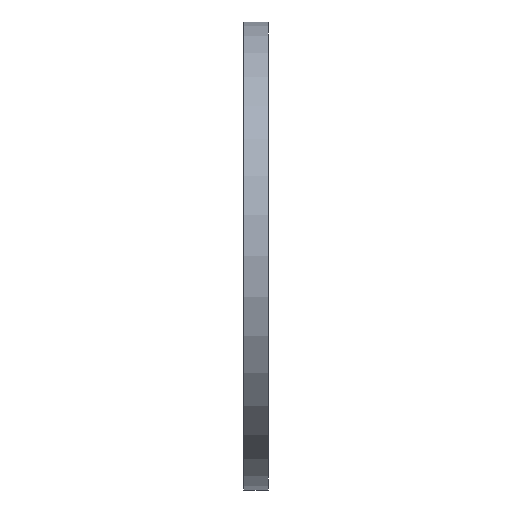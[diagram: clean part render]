
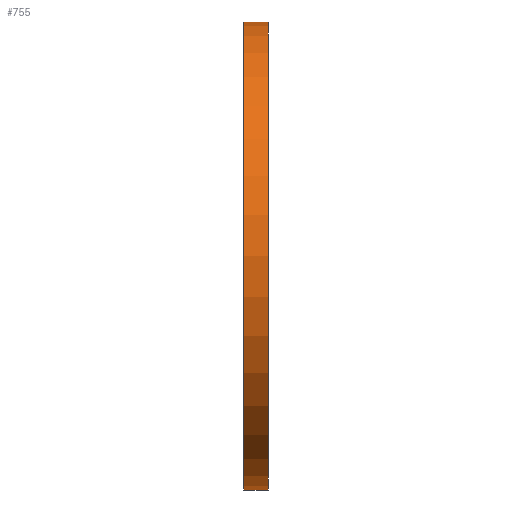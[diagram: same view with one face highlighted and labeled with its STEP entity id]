
A CAD part, left-side view. The second image highlights one B-rep face of the part: STEP entity #755.
In plain terms, the highlighted cylindrical face has radius 142.5 mm (diameter 285 mm), a partial arc.
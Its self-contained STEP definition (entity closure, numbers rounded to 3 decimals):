
#9 = AXIS2_PLACEMENT_3D ( 'NONE', #625, #548, #531 ) ;
#35 = CARTESIAN_POINT ( 'NONE',  ( 0., 38.545, -142.5 ) ) ;
#45 = LINE ( 'NONE', #35, #871 ) ;
#69 = ORIENTED_EDGE ( 'NONE', *, *, #110, .F. ) ;
#104 = CIRCLE ( 'NONE', #605, 142.5 ) ;
#109 = VERTEX_POINT ( 'NONE', #670 ) ;
#110 = EDGE_CURVE ( 'NONE', #196, #498, #104, .T. ) ;
#150 = CIRCLE ( 'NONE', #9, 142.5 ) ;
#175 = DIRECTION ( 'NONE',  ( 0., 1., 0. ) ) ;
#179 = CARTESIAN_POINT ( 'NONE',  ( 0., 15., -142.5 ) ) ;
#196 = VERTEX_POINT ( 'NONE', #179 ) ;
#227 = EDGE_CURVE ( 'NONE', #109, #498, #864, .T. ) ;
#237 = DIRECTION ( 'NONE',  ( 0., 0., 1. ) ) ;
#245 = DIRECTION ( 'NONE',  ( 0., 1., 0. ) ) ;
#248 = CARTESIAN_POINT ( 'NONE',  ( 0., 15., 0. ) ) ;
#291 = EDGE_CURVE ( 'NONE', #398, #109, #150, .T. ) ;
#302 = CARTESIAN_POINT ( 'NONE',  ( 0., 38.545, 142.5 ) ) ;
#309 = DIRECTION ( 'NONE',  ( 0., 1., 0. ) ) ;
#314 = FACE_OUTER_BOUND ( 'NONE', #520, .T. ) ;
#326 = AXIS2_PLACEMENT_3D ( 'NONE', #438, #725, #237 ) ;
#398 = VERTEX_POINT ( 'NONE', #541 ) ;
#438 = CARTESIAN_POINT ( 'NONE',  ( 0., 38.545, 0. ) ) ;
#498 = VERTEX_POINT ( 'NONE', #813 ) ;
#520 = EDGE_LOOP ( 'NONE', ( #754, #732, #533, #69 ) ) ;
#531 = DIRECTION ( 'NONE',  ( 0., 0., 1. ) ) ;
#533 = ORIENTED_EDGE ( 'NONE', *, *, #227, .T. ) ;
#541 = CARTESIAN_POINT ( 'NONE',  ( 0., 0., -142.5 ) ) ;
#548 = DIRECTION ( 'NONE',  ( 0., 1., 0. ) ) ;
#605 = AXIS2_PLACEMENT_3D ( 'NONE', #248, #175, #660 ) ;
#625 = CARTESIAN_POINT ( 'NONE',  ( 0., 0., 0. ) ) ;
#650 = VECTOR ( 'NONE', #245, 1000. ) ;
#660 = DIRECTION ( 'NONE',  ( 0., 0., 1. ) ) ;
#670 = CARTESIAN_POINT ( 'NONE',  ( 0., 0., 142.5 ) ) ;
#725 = DIRECTION ( 'NONE',  ( 0., 1., 0. ) ) ;
#732 = ORIENTED_EDGE ( 'NONE', *, *, #291, .T. ) ;
#754 = ORIENTED_EDGE ( 'NONE', *, *, #806, .F. ) ;
#755 = ADVANCED_FACE ( 'NONE', ( #314 ), #858, .T. ) ;
#806 = EDGE_CURVE ( 'NONE', #398, #196, #45, .T. ) ;
#813 = CARTESIAN_POINT ( 'NONE',  ( 0., 15., 142.5 ) ) ;
#858 = CYLINDRICAL_SURFACE ( 'NONE', #326, 142.5 ) ;
#864 = LINE ( 'NONE', #302, #650 ) ;
#871 = VECTOR ( 'NONE', #309, 1000. ) ;
